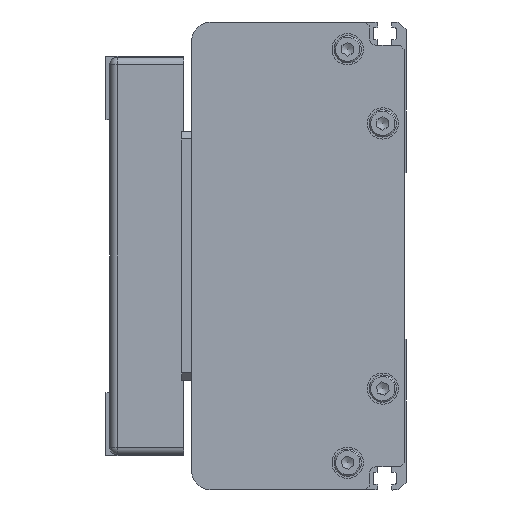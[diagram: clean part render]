
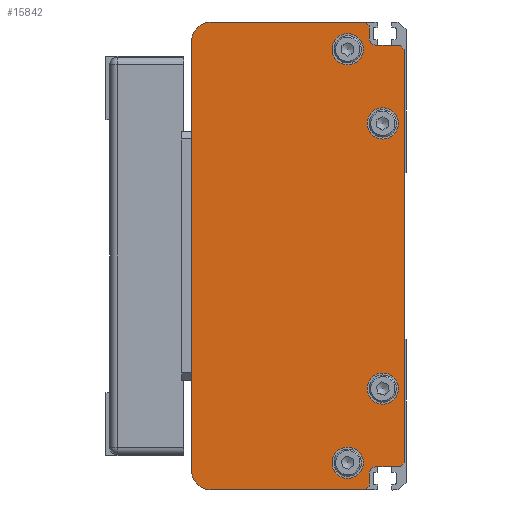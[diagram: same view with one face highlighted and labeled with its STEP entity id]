
A CAD part, left-side view. The second image highlights one B-rep face of the part: STEP entity #15842.
In plain terms, the highlighted planar face has unit normal (-1, 0, 0) as drawn and (0, 0, -1) by its records, which use the part's own axes.
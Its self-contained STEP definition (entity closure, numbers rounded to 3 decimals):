
#828=FACE_BOUND('',#2607,.T.);
#829=FACE_BOUND('',#2608,.T.);
#830=FACE_BOUND('',#2609,.T.);
#831=FACE_BOUND('',#2610,.T.);
#1144=CIRCLE('',#16974,5.);
#1145=CIRCLE('',#16976,5.);
#1146=CIRCLE('',#16977,2.);
#1147=CIRCLE('',#16978,2.);
#1148=CIRCLE('',#16979,4.);
#1149=CIRCLE('',#16980,4.);
#1150=CIRCLE('',#16981,4.);
#1151=CIRCLE('',#16982,4.);
#1576=FACE_OUTER_BOUND('',#2606,.T.);
#2606=EDGE_LOOP('',(#10908,#10909,#10910,#10911,#10912,#10913,#10914,#10915,
#10916,#10917,#10918,#10919,#10920,#10921,#10922,#10923));
#2607=EDGE_LOOP('',(#10924));
#2608=EDGE_LOOP('',(#10925));
#2609=EDGE_LOOP('',(#10926));
#2610=EDGE_LOOP('',(#10927));
#3849=LINE('',#22665,#5374);
#3850=LINE('',#22667,#5375);
#3851=LINE('',#22670,#5376);
#3852=LINE('',#22672,#5377);
#3853=LINE('',#22674,#5378);
#3854=LINE('',#22676,#5379);
#3855=LINE('',#22680,#5380);
#3856=LINE('',#22682,#5381);
#3857=LINE('',#22684,#5382);
#3858=LINE('',#22686,#5383);
#3859=LINE('',#22688,#5384);
#3860=LINE('',#22691,#5385);
#5374=VECTOR('',#18502,1.414);
#5375=VECTOR('',#18503,39.5);
#5376=VECTOR('',#18506,110.);
#5377=VECTOR('',#18507,39.5);
#5378=VECTOR('',#18508,1.414);
#5379=VECTOR('',#18509,3.);
#5380=VECTOR('',#18512,6.);
#5381=VECTOR('',#18513,1.414);
#5382=VECTOR('',#18514,106.);
#5383=VECTOR('',#18515,1.414);
#5384=VECTOR('',#18516,6.);
#5385=VECTOR('',#18519,3.);
#6933=VERTEX_POINT('',#22657);
#6934=VERTEX_POINT('',#22659);
#6935=VERTEX_POINT('',#22663);
#6936=VERTEX_POINT('',#22664);
#6937=VERTEX_POINT('',#22666);
#6938=VERTEX_POINT('',#22668);
#6939=VERTEX_POINT('',#22671);
#6940=VERTEX_POINT('',#22673);
#6941=VERTEX_POINT('',#22675);
#6942=VERTEX_POINT('',#22677);
#6943=VERTEX_POINT('',#22679);
#6944=VERTEX_POINT('',#22681);
#6945=VERTEX_POINT('',#22683);
#6946=VERTEX_POINT('',#22685);
#6947=VERTEX_POINT('',#22687);
#6948=VERTEX_POINT('',#22689);
#6949=VERTEX_POINT('',#22692);
#6950=VERTEX_POINT('',#22694);
#6951=VERTEX_POINT('',#22696);
#6952=VERTEX_POINT('',#22698);
#8519=EDGE_CURVE('',#6933,#6934,#1144,.T.);
#8521=EDGE_CURVE('',#6935,#6936,#3849,.T.);
#8522=EDGE_CURVE('',#6935,#6937,#3850,.T.);
#8523=EDGE_CURVE('',#6938,#6937,#1145,.T.);
#8524=EDGE_CURVE('',#6938,#6934,#3851,.T.);
#8525=EDGE_CURVE('',#6933,#6939,#3852,.T.);
#8526=EDGE_CURVE('',#6940,#6939,#3853,.T.);
#8527=EDGE_CURVE('',#6940,#6941,#3854,.T.);
#8528=EDGE_CURVE('',#6941,#6942,#1146,.T.);
#8529=EDGE_CURVE('',#6942,#6943,#3855,.T.);
#8530=EDGE_CURVE('',#6944,#6943,#3856,.T.);
#8531=EDGE_CURVE('',#6944,#6945,#3857,.T.);
#8532=EDGE_CURVE('',#6946,#6945,#3858,.T.);
#8533=EDGE_CURVE('',#6946,#6947,#3859,.T.);
#8534=EDGE_CURVE('',#6947,#6948,#1147,.T.);
#8535=EDGE_CURVE('',#6948,#6936,#3860,.T.);
#8536=EDGE_CURVE('',#6949,#6949,#1148,.T.);
#8537=EDGE_CURVE('',#6950,#6950,#1149,.T.);
#8538=EDGE_CURVE('',#6951,#6951,#1150,.T.);
#8539=EDGE_CURVE('',#6952,#6952,#1151,.T.);
#10908=ORIENTED_EDGE('',*,*,#8521,.F.);
#10909=ORIENTED_EDGE('',*,*,#8522,.T.);
#10910=ORIENTED_EDGE('',*,*,#8523,.F.);
#10911=ORIENTED_EDGE('',*,*,#8524,.T.);
#10912=ORIENTED_EDGE('',*,*,#8519,.F.);
#10913=ORIENTED_EDGE('',*,*,#8525,.T.);
#10914=ORIENTED_EDGE('',*,*,#8526,.F.);
#10915=ORIENTED_EDGE('',*,*,#8527,.T.);
#10916=ORIENTED_EDGE('',*,*,#8528,.T.);
#10917=ORIENTED_EDGE('',*,*,#8529,.T.);
#10918=ORIENTED_EDGE('',*,*,#8530,.F.);
#10919=ORIENTED_EDGE('',*,*,#8531,.T.);
#10920=ORIENTED_EDGE('',*,*,#8532,.F.);
#10921=ORIENTED_EDGE('',*,*,#8533,.T.);
#10922=ORIENTED_EDGE('',*,*,#8534,.T.);
#10923=ORIENTED_EDGE('',*,*,#8535,.T.);
#10924=ORIENTED_EDGE('',*,*,#8536,.T.);
#10925=ORIENTED_EDGE('',*,*,#8537,.T.);
#10926=ORIENTED_EDGE('',*,*,#8538,.T.);
#10927=ORIENTED_EDGE('',*,*,#8539,.T.);
#15218=PLANE('',#16975);
#15842=ADVANCED_FACE('',(#1576,#828,#829,#830,#831),#15218,.F.);
#16974=AXIS2_PLACEMENT_3D('',#22660,#18497,#18498);
#16975=AXIS2_PLACEMENT_3D('',#22662,#18500,#18501);
#16976=AXIS2_PLACEMENT_3D('',#22669,#18504,#18505);
#16977=AXIS2_PLACEMENT_3D('',#22678,#18510,#18511);
#16978=AXIS2_PLACEMENT_3D('',#22690,#18517,#18518);
#16979=AXIS2_PLACEMENT_3D('',#22693,#18520,#18521);
#16980=AXIS2_PLACEMENT_3D('',#22695,#18522,#18523);
#16981=AXIS2_PLACEMENT_3D('',#22697,#18524,#18525);
#16982=AXIS2_PLACEMENT_3D('',#22699,#18526,#18527);
#18497=DIRECTION('center_axis',(0.,0.,
1.));
#18498=DIRECTION('ref_axis',(0.707,0.707,0.));
#18500=DIRECTION('center_axis',(0.,0.,
1.));
#18501=DIRECTION('ref_axis',(-1.,-0.018,0.));
#18502=DIRECTION('',(0.707,-0.707,0.));
#18503=DIRECTION('',(0.,1.,0.));
#18504=DIRECTION('center_axis',(0.,0.,
1.));
#18505=DIRECTION('ref_axis',(-0.707,0.707,0.));
#18506=DIRECTION('',(1.,0.,0.));
#18507=DIRECTION('',(0.,-1.,0.));
#18508=DIRECTION('',(0.707,0.707,0.));
#18509=DIRECTION('',(-1.,0.,0.));
#18510=DIRECTION('center_axis',(0.,0.,
1.));
#18511=DIRECTION('ref_axis',(0.,-1.,0.));
#18512=DIRECTION('',(0.,-1.,0.));
#18513=DIRECTION('',(0.707,0.707,0.));
#18514=DIRECTION('',(-1.,0.,0.));
#18515=DIRECTION('',(0.707,-0.707,0.));
#18516=DIRECTION('',(0.,1.,0.));
#18517=DIRECTION('center_axis',(0.,0.,
1.));
#18518=DIRECTION('ref_axis',(1.,0.,0.));
#18519=DIRECTION('',(-1.,0.,0.));
#18520=DIRECTION('center_axis',(0.,0.,
1.));
#18521=DIRECTION('ref_axis',(0.,1.,0.));
#18522=DIRECTION('center_axis',(0.,0.,
1.));
#18523=DIRECTION('ref_axis',(0.,1.,0.));
#18524=DIRECTION('center_axis',(0.,0.,
1.));
#18525=DIRECTION('ref_axis',(0.,1.,0.));
#18526=DIRECTION('center_axis',(0.,0.,
1.));
#18527=DIRECTION('ref_axis',(0.,1.,0.));
#22657=CARTESIAN_POINT('',(124.75,50.75,-792.5));
#22659=CARTESIAN_POINT('',(119.75,55.75,-792.5));
#22660=CARTESIAN_POINT('Origin',(119.75,50.75,-792.5));
#22662=CARTESIAN_POINT('Origin',(64.75,28.5,-792.5));
#22663=CARTESIAN_POINT('',(4.75,11.25,-792.5));
#22664=CARTESIAN_POINT('',(5.75,10.25,-792.5));
#22665=CARTESIAN_POINT('',(4.75,11.25,-792.5));
#22666=CARTESIAN_POINT('',(4.75,50.75,-792.5));
#22667=CARTESIAN_POINT('',(4.75,11.25,-792.5));
#22668=CARTESIAN_POINT('',(9.75,55.75,-792.5));
#22669=CARTESIAN_POINT('Origin',(9.75,50.75,-792.5));
#22670=CARTESIAN_POINT('',(9.75,55.75,-792.5));
#22671=CARTESIAN_POINT('',(124.75,11.25,-792.5));
#22672=CARTESIAN_POINT('',(124.75,50.75,-792.5));
#22673=CARTESIAN_POINT('',(123.75,10.25,-792.5));
#22674=CARTESIAN_POINT('',(123.75,10.25,-792.5));
#22675=CARTESIAN_POINT('',(120.75,10.25,-792.5));
#22676=CARTESIAN_POINT('',(123.75,10.25,-792.5));
#22677=CARTESIAN_POINT('',(118.75,8.25,-792.5));
#22678=CARTESIAN_POINT('Origin',(120.75,8.25,-792.5));
#22679=CARTESIAN_POINT('',(118.75,2.25,-792.5));
#22680=CARTESIAN_POINT('',(118.75,8.25,-792.5));
#22681=CARTESIAN_POINT('',(117.75,1.25,-792.5));
#22682=CARTESIAN_POINT('',(117.75,1.25,-792.5));
#22683=CARTESIAN_POINT('',(11.75,1.25,-792.5));
#22684=CARTESIAN_POINT('',(117.75,1.25,-792.5));
#22685=CARTESIAN_POINT('',(10.75,2.25,-792.5));
#22686=CARTESIAN_POINT('',(10.75,2.25,-792.5));
#22687=CARTESIAN_POINT('',(10.75,8.25,-792.5));
#22688=CARTESIAN_POINT('',(10.75,2.25,-792.5));
#22689=CARTESIAN_POINT('',(8.75,10.25,-792.5));
#22690=CARTESIAN_POINT('Origin',(8.75,8.25,-792.5));
#22691=CARTESIAN_POINT('',(8.75,10.25,-792.5));
#22692=CARTESIAN_POINT('',(30.75,10.75,-792.5));
#22693=CARTESIAN_POINT('Origin',(30.75,6.75,-792.5));
#22694=CARTESIAN_POINT('',(98.75,10.75,-792.5));
#22695=CARTESIAN_POINT('Origin',(98.75,6.75,-792.5));
#22696=CARTESIAN_POINT('',(11.75,19.75,-792.5));
#22697=CARTESIAN_POINT('Origin',(11.75,15.75,-792.5));
#22698=CARTESIAN_POINT('',(117.75,19.75,-792.5));
#22699=CARTESIAN_POINT('Origin',(117.75,15.75,-792.5));
